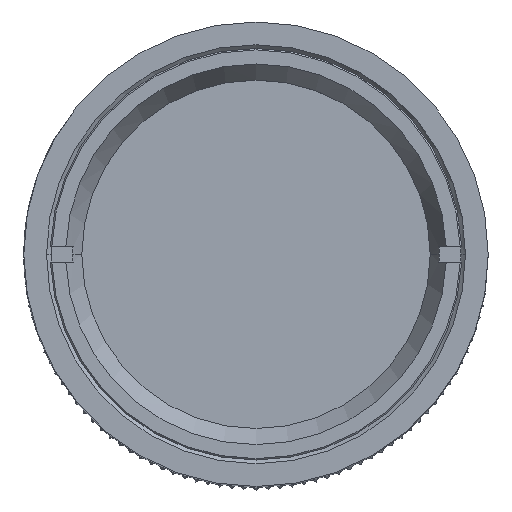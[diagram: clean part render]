
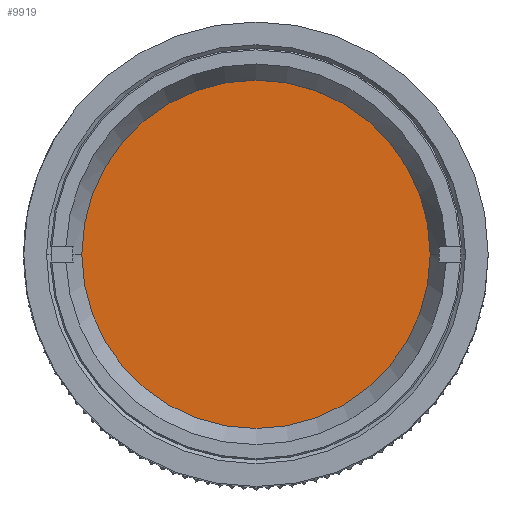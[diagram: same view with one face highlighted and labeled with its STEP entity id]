
A CAD part, top view. The second image highlights one B-rep face of the part: STEP entity #9919.
In plain terms, the highlighted planar face has unit normal (0, 0, 1).
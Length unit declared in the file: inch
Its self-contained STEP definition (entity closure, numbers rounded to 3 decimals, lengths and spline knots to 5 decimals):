
#1257 = EDGE_LOOP ( 'NONE', ( #6708, #6672 ) ) ;
#2595 = CARTESIAN_POINT ( 'NONE',  ( 0., 0., 2.53353 ) ) ;
#2598 = FACE_OUTER_BOUND ( 'NONE', #1257, .T. ) ;
#2599 = PLANE ( 'NONE',  #10691 ) ;
#2602 = DIRECTION ( 'NONE',  ( 0., 0., -1. ) ) ;
#2603 = DIRECTION ( 'NONE',  ( -1., 0., 0. ) ) ;
#6672 = ORIENTED_EDGE ( 'NONE', *, *, #15724, .T. ) ;
#6708 = ORIENTED_EDGE ( 'NONE', *, *, #8395, .T. ) ;
#8395 = EDGE_CURVE ( 'NONE', #13548, #13549, #9359, .T. ) ;
#9359 = CIRCLE ( 'NONE', #9364, 0.44291 ) ;
#9364 = AXIS2_PLACEMENT_3D ( 'NONE', #11766, #11767, #11768 ) ;
#9919 = ADVANCED_FACE ( 'NONE', ( #2598 ), #2599, .F. ) ;
#10378 = AXIS2_PLACEMENT_3D ( 'NONE', #12544, #12546, #12548 ) ;
#10380 = CIRCLE ( 'NONE', #10378, 0.44291 ) ;
#10691 = AXIS2_PLACEMENT_3D ( 'NONE', #2595, #2602, #2603 ) ;
#11766 = CARTESIAN_POINT ( 'NONE',  ( 0., 0., 2.53353 ) ) ;
#11767 = DIRECTION ( 'NONE',  ( 0., 0., 1. ) ) ;
#11768 = DIRECTION ( 'NONE',  ( 1., 0., 0. ) ) ;
#12544 = CARTESIAN_POINT ( 'NONE',  ( 0., 0., 2.53353 ) ) ;
#12546 = DIRECTION ( 'NONE',  ( 0., 0., 1. ) ) ;
#12548 = DIRECTION ( 'NONE',  ( 1., 0., 0. ) ) ;
#13548 = VERTEX_POINT ( 'NONE', #17263 ) ;
#13549 = VERTEX_POINT ( 'NONE', #17264 ) ;
#15724 = EDGE_CURVE ( 'NONE', #13549, #13548, #10380, .T. ) ;
#17263 = CARTESIAN_POINT ( 'NONE',  ( 0.44291, 0., 2.53353 ) ) ;
#17264 = CARTESIAN_POINT ( 'NONE',  ( -0.44291, 0., 2.53353 ) ) ;
